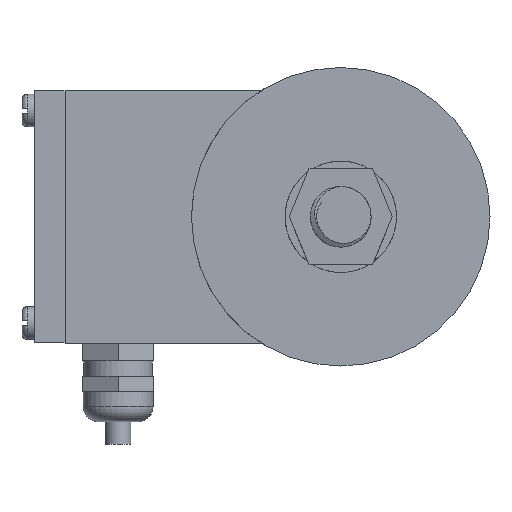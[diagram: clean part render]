
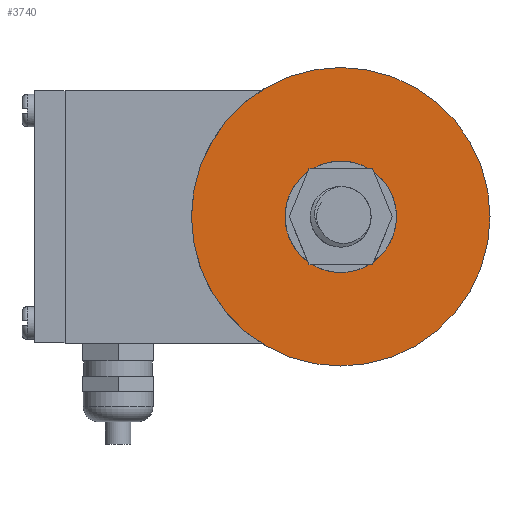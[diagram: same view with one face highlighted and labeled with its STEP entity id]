
A CAD part, front view. The second image highlights one B-rep face of the part: STEP entity #3740.
In plain terms, the highlighted planar face has unit normal (0, -1, 0).
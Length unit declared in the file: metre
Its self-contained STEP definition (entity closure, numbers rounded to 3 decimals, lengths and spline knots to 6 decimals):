
#147 = EDGE_CURVE ( 'NONE', #5488, #7086, #1434, .T. ) ;
#472 = EDGE_LOOP ( 'NONE', ( #8403, #3345 ) ) ;
#628 = CARTESIAN_POINT ( 'NONE',  ( 0., -0.013, -0.0295 ) ) ;
#760 = EDGE_CURVE ( 'NONE', #7086, #5488, #1316, .T. ) ;
#787 = EDGE_CURVE ( 'NONE', #7121, #1438, #8571, .T. ) ;
#796 = AXIS2_PLACEMENT_3D ( 'NONE', #6575, #6573, #6879 ) ;
#816 = AXIS2_PLACEMENT_3D ( 'NONE', #7567, #7676, #7536 ) ;
#820 = AXIS2_PLACEMENT_3D ( 'NONE', #7606, #7544, #7610 ) ;
#914 = DIRECTION ( 'NONE',  ( 0., 1., 0. ) ) ;
#929 = PLANE ( 'NONE',  #1120 ) ;
#1011 = DIRECTION ( 'NONE',  ( 0., 0., 1. ) ) ;
#1031 = CARTESIAN_POINT ( 'NONE',  ( -0.0295, -0.013, 0. ) ) ;
#1120 = AXIS2_PLACEMENT_3D ( 'NONE', #1031, #914, #1011 ) ;
#1316 = CIRCLE ( 'NONE', #816, 0.011 ) ;
#1434 = CIRCLE ( 'NONE', #796, 0.011 ) ;
#1438 = VERTEX_POINT ( 'NONE', #628 ) ;
#3322 = ORIENTED_EDGE ( 'NONE', *, *, #787, .T. ) ;
#3345 = ORIENTED_EDGE ( 'NONE', *, *, #147, .F. ) ;
#3740 = ADVANCED_FACE ( 'NONE', ( #10502, #10514 ), #929, .F. ) ;
#5488 = VERTEX_POINT ( 'NONE', #9970 ) ;
#6525 = EDGE_CURVE ( 'NONE', #1438, #7121, #7398, .T. ) ;
#6573 = DIRECTION ( 'NONE',  ( 0., -1., 0. ) ) ;
#6575 = CARTESIAN_POINT ( 'NONE',  ( 0., -0.013, 0. ) ) ;
#6879 = DIRECTION ( 'NONE',  ( 0., 0., 1. ) ) ;
#7086 = VERTEX_POINT ( 'NONE', #10117 ) ;
#7121 = VERTEX_POINT ( 'NONE', #10152 ) ;
#7398 = CIRCLE ( 'NONE', #9445, 0.0295 ) ;
#7536 = DIRECTION ( 'NONE',  ( 0., 0., 1. ) ) ;
#7544 = DIRECTION ( 'NONE',  ( 0., -1., 0. ) ) ;
#7567 = CARTESIAN_POINT ( 'NONE',  ( 0., -0.013, 0. ) ) ;
#7606 = CARTESIAN_POINT ( 'NONE',  ( 0., -0.013, 0. ) ) ;
#7610 = DIRECTION ( 'NONE',  ( 0., 0., -1. ) ) ;
#7676 = DIRECTION ( 'NONE',  ( 0., -1., 0. ) ) ;
#8061 = EDGE_LOOP ( 'NONE', ( #8508, #3322 ) ) ;
#8403 = ORIENTED_EDGE ( 'NONE', *, *, #760, .F. ) ;
#8508 = ORIENTED_EDGE ( 'NONE', *, *, #6525, .T. ) ;
#8571 = CIRCLE ( 'NONE', #820, 0.0295 ) ;
#9445 = AXIS2_PLACEMENT_3D ( 'NONE', #10052, #10053, #10054 ) ;
#9970 = CARTESIAN_POINT ( 'NONE',  ( 0., -0.013, -0.011 ) ) ;
#10052 = CARTESIAN_POINT ( 'NONE',  ( 0., -0.013, 0. ) ) ;
#10053 = DIRECTION ( 'NONE',  ( 0., -1., 0. ) ) ;
#10054 = DIRECTION ( 'NONE',  ( 0., 0., -1. ) ) ;
#10117 = CARTESIAN_POINT ( 'NONE',  ( 0., -0.013, 0.011 ) ) ;
#10152 = CARTESIAN_POINT ( 'NONE',  ( 0., -0.013, 0.0295 ) ) ;
#10502 = FACE_OUTER_BOUND ( 'NONE', #8061, .T. ) ;
#10514 = FACE_BOUND ( 'NONE', #472, .T. ) ;
